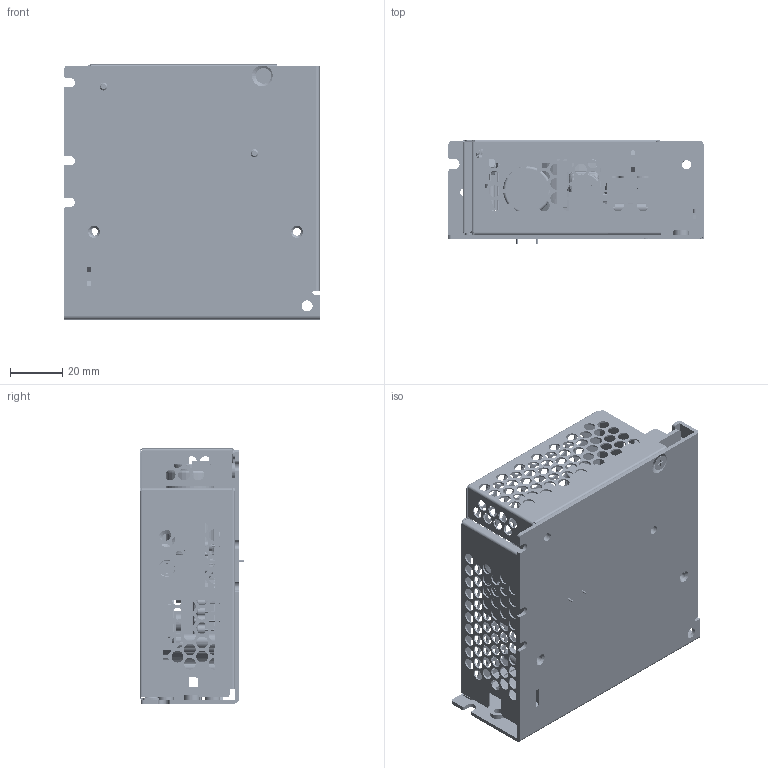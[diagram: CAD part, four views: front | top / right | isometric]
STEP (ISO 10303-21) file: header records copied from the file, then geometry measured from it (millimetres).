
FILE_DESCRIPTION((''),'2;1');
FILE_NAME('NEW_50W_ASM','2014-08-08T',('LEON.YEH'),(''),'PRO/ENGINEER BY PARAMETRIC TECHNOLOGY CORPORATION, 2010280','PRO/ENGINEER BY PARAMETRIC TECHNOLOGY CORPORATION, 2010280','');
FILE_SCHEMA(('CONFIG_CONTROL_DESIGN'));
Products named in the file (37): 5V50W_PWB_AF1; CONN_5P_; SCREW-CON_; CONN_ASS5PIN_ASM; LED_HOLDER; VR1_; LEG1_; VR_LEG__ASM; 3103000500_FLAT_L5_1; HSK; HSK_PIN1; HSK_PIN2; HSK_ASM_ASM; 242017601306_Q1; 3105325100-L6; 3105320100-L8; 3110150400__W___ANY; CY1; DIODE_RESET__W___ANY; 200111620071_BD1; 2875187900_FL1; 0910800216_NTC1; 145401210505_C1; CORE-PJ3019_1_AF0; CORE-PJ3019_1_AF1; 3173070000_1_AF0; 3132069600_11_AF0; ASSY-PJ3018_ASM_1_AF0_ASM; 11_AF0; ASSY-PJ3018_ASM_AF1_ASM; C7; F1; 331609650101_CHASSIS; STUD_6_32_L7_; 331609650101_CHASSIS_ASM; NEW_COVER; NEW_50W_ASM
Assembly tree (52 placements, depth 4):
  NEW_50W_ASM
    5V50W_PWB_AF1
    CONN_ASS5PIN_ASM
      CONN_5P_
      SCREW-CON_  x5
    LED_HOLDER
    VR_LEG__ASM
      VR1_
      LEG1_  x3
    3103000500_FLAT_L5_1  x2
    HSK_ASM_ASM
      HSK
      HSK_PIN1
      HSK_PIN2
    242017601306_Q1  x2
    3105325100-L6  x2
    3105320100-L8  x2
    3110150400__W___ANY  x2
    CY1  x5
    DIODE_RESET__W___ANY
    200111620071_BD1
    2875187900_FL1
    0910800216_NTC1
    145401210505_C1
    ASSY-PJ3018_ASM_AF1_ASM
      ASSY-PJ3018_ASM_1_AF0_ASM
        CORE-PJ3019_1_AF0
        CORE-PJ3019_1_AF1
        3173070000_1_AF0
        3132069600_11_AF0
      11_AF0
    C7
    F1
    331609650101_CHASSIS_ASM
      331609650101_CHASSIS
      STUD_6_32_L7_  x2
    NEW_COVER
Bounding box: 98 x 40.15 x 98 mm (x, y, z)
Volume: 79285.4 mm3; surface area: 104045.9 mm2
Topology: 55 solids, 55 shells, 4090 faces, 9946 edges, 5959 vertices
Faces by surface type: cylinder 2004, plane 1107, torus 678, bspline 155, cone 80, sphere 46, revolution 20
Entity records: 124019 total; most frequent: CARTESIAN_POINT 34982, DIRECTION 19214, ORIENTED_EDGE 17954, EDGE_CURVE 8977, AXIS2_PLACEMENT_3D 7750, VERTEX_POINT 5406, EDGE_LOOP 4513, CIRCLE 4058
